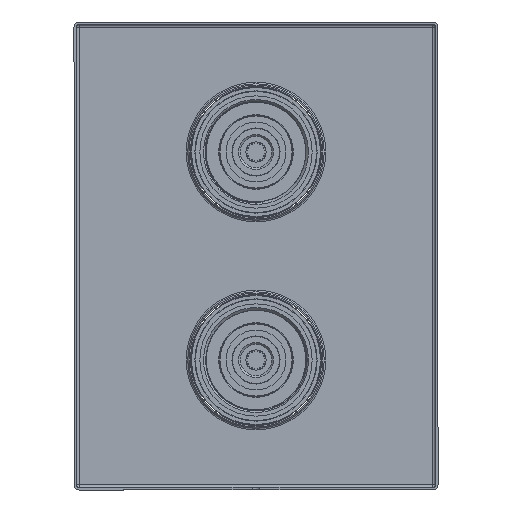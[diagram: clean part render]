
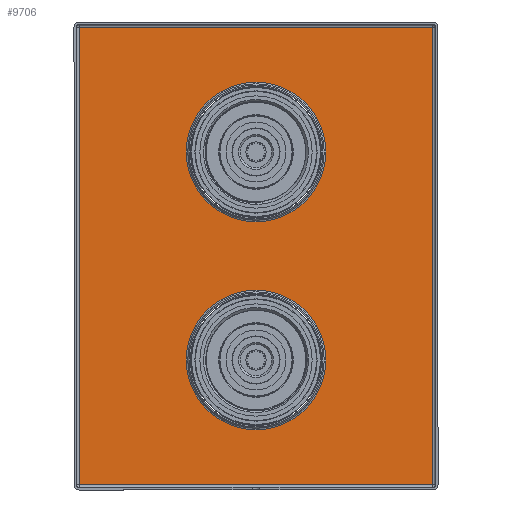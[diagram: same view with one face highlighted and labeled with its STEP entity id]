
A CAD part, left-side view. The second image highlights one B-rep face of the part: STEP entity #9706.
In plain terms, the highlighted planar face has unit normal (-1, 0, 0) as drawn and (0, -1, 0) by its records, which use the part's own axes.
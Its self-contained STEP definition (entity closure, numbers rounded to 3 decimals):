
#828=LINE('',#22105,#1471);
#829=LINE('',#22107,#1472);
#830=LINE('',#22109,#1473);
#831=LINE('',#22110,#1474);
#1471=VECTOR('',#12881,136.);
#1472=VECTOR('',#12882,176.);
#1473=VECTOR('',#12883,136.);
#1474=VECTOR('',#12884,176.);
#1962=PLANE('',#10567);
#2339=CIRCLE('',#10566,26.85);
#2340=CIRCLE('',#10568,26.85);
#2533=FACE_BOUND('',#3834,.T.);
#2534=FACE_BOUND('',#3835,.T.);
#3093=FACE_OUTER_BOUND('',#3833,.T.);
#3833=EDGE_LOOP('',(#8854,#8855,#8856,#8857));
#3834=EDGE_LOOP('',(#8858));
#3835=EDGE_LOOP('',(#8859));
#4984=VERTEX_POINT('',#22100);
#4985=VERTEX_POINT('',#22103);
#4986=VERTEX_POINT('',#22104);
#4987=VERTEX_POINT('',#22106);
#4988=VERTEX_POINT('',#22108);
#4989=VERTEX_POINT('',#22111);
#6289=EDGE_CURVE('',#4984,#4984,#2339,.T.);
#6290=EDGE_CURVE('',#4985,#4986,#828,.T.);
#6291=EDGE_CURVE('',#4986,#4987,#829,.T.);
#6292=EDGE_CURVE('',#4987,#4988,#830,.T.);
#6293=EDGE_CURVE('',#4988,#4985,#831,.T.);
#6294=EDGE_CURVE('',#4989,#4989,#2340,.T.);
#8854=ORIENTED_EDGE('',*,*,#6290,.T.);
#8855=ORIENTED_EDGE('',*,*,#6291,.T.);
#8856=ORIENTED_EDGE('',*,*,#6292,.T.);
#8857=ORIENTED_EDGE('',*,*,#6293,.T.);
#8858=ORIENTED_EDGE('',*,*,#6294,.T.);
#8859=ORIENTED_EDGE('',*,*,#6289,.T.);
#9706=ADVANCED_FACE('',(#3093,#2533,#2534),#1962,.F.);
#10566=AXIS2_PLACEMENT_3D('',#22101,#12877,#12878);
#10567=AXIS2_PLACEMENT_3D('',#22102,#12879,#12880);
#10568=AXIS2_PLACEMENT_3D('',#22112,#12885,#12886);
#12877=DIRECTION('center_axis',(0.,1.,0.));
#12878=DIRECTION('ref_axis',(1.,0.,0.));
#12879=DIRECTION('center_axis',(0.,1.,0.));
#12880=DIRECTION('ref_axis',(0.,0.,1.));
#12881=DIRECTION('',(1.,0.,0.));
#12882=DIRECTION('',(0.,0.,1.));
#12883=DIRECTION('',(-1.,0.,0.));
#12884=DIRECTION('',(0.,0.,-1.));
#12885=DIRECTION('center_axis',(0.,1.,0.));
#12886=DIRECTION('ref_axis',(1.,0.,0.));
#22100=CARTESIAN_POINT('',(-26.85,11.,40.));
#22101=CARTESIAN_POINT('Origin',(0.,11.,40.));
#22102=CARTESIAN_POINT('Origin',(-70.,11.,0.));
#22103=CARTESIAN_POINT('',(-68.,11.,-88.));
#22104=CARTESIAN_POINT('',(68.,11.,-88.));
#22105=CARTESIAN_POINT('',(-35.,11.,-88.));
#22106=CARTESIAN_POINT('',(68.,11.,88.));
#22107=CARTESIAN_POINT('',(68.,11.,0.));
#22108=CARTESIAN_POINT('',(-68.,11.,88.));
#22109=CARTESIAN_POINT('',(-35.,11.,88.));
#22110=CARTESIAN_POINT('',(-68.,11.,0.));
#22111=CARTESIAN_POINT('',(-26.85,11.,-40.));
#22112=CARTESIAN_POINT('Origin',(0.,11.,-40.));
